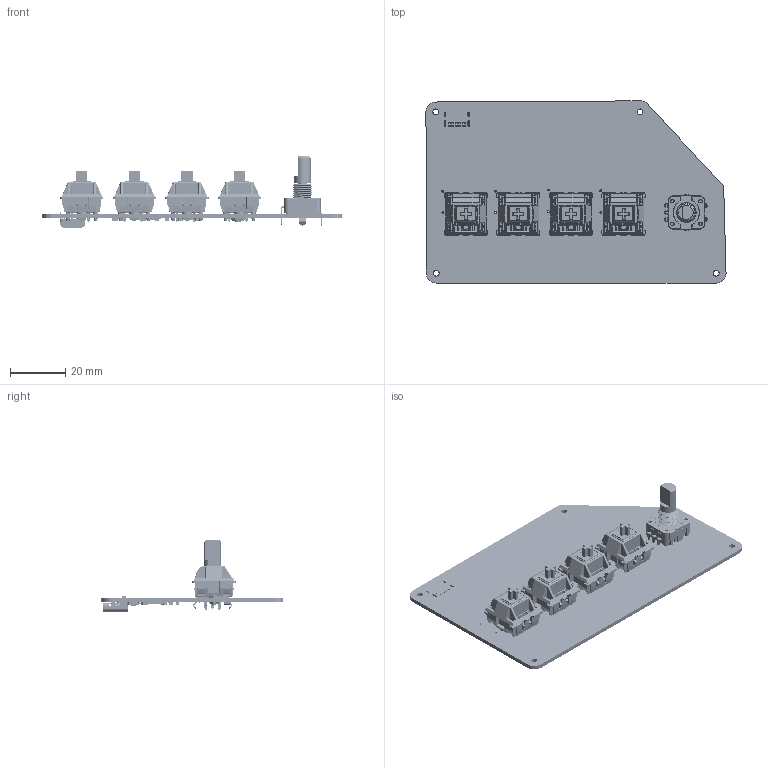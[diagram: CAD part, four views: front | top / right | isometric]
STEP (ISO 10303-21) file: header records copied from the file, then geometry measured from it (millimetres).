
FILE_DESCRIPTION(('KiCad electronic assembly'),'2;1');
FILE_NAME('3rd testing.step','2026-02-17T21:03:28',('Pcbnew'),('Kicad'), 'Open CASCADE STEP processor 7.9','KiCad to STEP converter','Unknown' );
FILE_SCHEMA(('AUTOMOTIVE_DESIGN { 1 0 10303 214 1 1 1 1 }'));
Length unit declared in the file: millimetre
Products named in the file (11): 3rd testing 1; MX_PCB; pec11r-4x15f-sxxxx; C_0805_2012Metric; R_0805_2012Metric; SK6812-E; Crystal_SMD_SeikoEpson_FA238-4Pin_3.2x2.5mm; USB_C_Receptacle_GCT_USB4085; TQFN-44-1EP_7x7mm_P0.5mm_EP4.7x4.7mm; SW_SPST_TL3342; 3rd testing_PCB
Assembly tree (26 placements, depth 2):
  3rd testing 1
    MX_PCB  x4
    pec11r-4x15f-sxxxx
    C_0805_2012Metric  x8
    R_0805_2012Metric  x4
    SK6812-E  x4
    Crystal_SMD_SeikoEpson_FA238-4Pin_3.2x2.5mm
    USB_C_Receptacle_GCT_USB4085
    TQFN-44-1EP_7x7mm_P0.5mm_EP4.7x4.7mm
    SW_SPST_TL3342
    3rd testing_PCB
Bounding box: 108.5 x 65.9 x 25.73 mm (x, y, z)
Volume: 15344.5 mm3; surface area: 29664.3 mm2
Topology: 99 solids, 101 shells, 5878 faces, 15441 edges, 9862 vertices
Faces by surface type: plane 3895, cylinder 1508, torus 162, bspline 148, sphere 104, cone 61
Full cylindrical faces by diameter (mm): 0.4 x16, 0.5 x1, 0.7 x10, 1 x5, 1.5 x8, 1.75 x8, 2 x1, 2.1 x4, 4 x4
Entity records: 107410 total; most frequent: CARTESIAN_POINT 26954, ORIENTED_EDGE 13822, DIRECTION 13000, EDGE_CURVE 6911, LINE 5412, VECTOR 5412, VERTEX_POINT 4459, AXIS2_PLACEMENT_3D 3794
